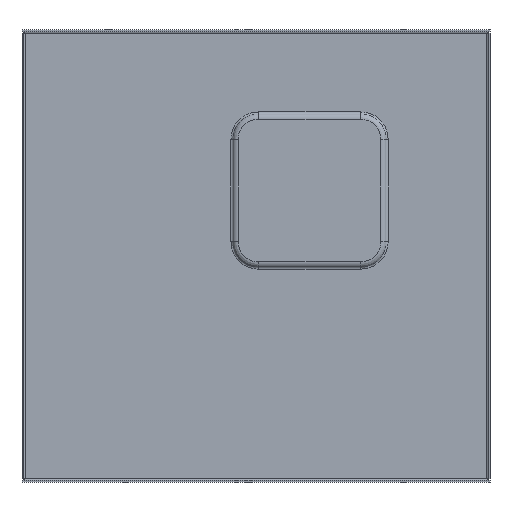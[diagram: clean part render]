
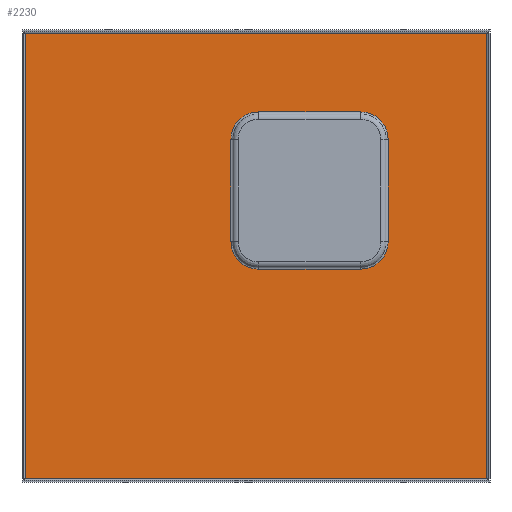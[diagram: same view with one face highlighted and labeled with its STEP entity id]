
A CAD part, front view. The second image highlights one B-rep face of the part: STEP entity #2230.
In plain terms, the highlighted planar face has unit normal (0, -1, 0).
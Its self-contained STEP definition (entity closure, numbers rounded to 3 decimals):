
#381=DIRECTION('',(1.,0.,0.));
#382=VECTOR('',#381,54.89);
#383=CARTESIAN_POINT('',(-27.445,3.2,-26.505));
#384=LINE('',#383,#382);
#392=DIRECTION('',(-1.,0.,0.));
#393=VECTOR('',#392,12.122);
#394=CARTESIAN_POINT('',(12.431,3.2,17.14));
#395=LINE('',#394,#393);
#396=CARTESIAN_POINT('',(0.309,3.2,17.14));
#397=CARTESIAN_POINT('',(0.039,3.2,17.14));
#398=CARTESIAN_POINT('',(-0.476,3.2,17.082));
#399=CARTESIAN_POINT('',(-1.182,3.2,16.837));
#400=CARTESIAN_POINT('',(-1.792,3.2,16.455));
#401=CARTESIAN_POINT('',(-2.295,3.2,15.952));
#402=CARTESIAN_POINT('',(-2.677,3.2,15.342));
#403=CARTESIAN_POINT('',(-2.922,3.2,14.636));
#404=CARTESIAN_POINT('',(-2.98,3.2,14.121));
#405=CARTESIAN_POINT('',(-2.98,3.2,13.851));
#407=DIRECTION('',(0.,0.,-1.));
#408=VECTOR('',#407,12.122);
#409=CARTESIAN_POINT('',(-2.98,3.2,13.851));
#410=LINE('',#409,#408);
#411=CARTESIAN_POINT('',(-2.98,3.2,1.729));
#412=CARTESIAN_POINT('',(-2.98,3.2,1.459));
#413=CARTESIAN_POINT('',(-2.922,3.2,0.944));
#414=CARTESIAN_POINT('',(-2.677,3.2,0.238));
#415=CARTESIAN_POINT('',(-2.295,3.2,
-0.372));
#416=CARTESIAN_POINT('',(-1.792,3.2,
-0.875));
#417=CARTESIAN_POINT('',(-1.182,3.2,-1.257));
#418=CARTESIAN_POINT('',(-0.476,3.2,
-1.502));
#419=CARTESIAN_POINT('',(0.039,3.2,-1.56));
#420=CARTESIAN_POINT('',(0.309,3.2,-1.56));
#422=DIRECTION('',(1.,0.,0.));
#423=VECTOR('',#422,12.122);
#424=CARTESIAN_POINT('',(0.309,3.2,-1.56));
#425=LINE('',#424,#423);
#426=CARTESIAN_POINT('',(12.431,3.2,-1.56));
#427=CARTESIAN_POINT('',(12.701,3.2,-1.56));
#428=CARTESIAN_POINT('',(13.216,3.2,-1.502));
#429=CARTESIAN_POINT('',(13.922,3.2,-1.257));
#430=CARTESIAN_POINT('',(14.532,3.2,-0.875));
#431=CARTESIAN_POINT('',(15.035,3.2,-0.372));
#432=CARTESIAN_POINT('',(15.417,3.2,0.238));
#433=CARTESIAN_POINT('',(15.662,3.2,0.944));
#434=CARTESIAN_POINT('',(15.72,3.2,1.459));
#435=CARTESIAN_POINT('',(15.72,3.2,1.729));
#437=DIRECTION('',(0.,0.,1.));
#438=VECTOR('',#437,12.122);
#439=CARTESIAN_POINT('',(15.72,3.2,1.729));
#440=LINE('',#439,#438);
#441=CARTESIAN_POINT('',(15.72,3.2,13.851));
#442=CARTESIAN_POINT('',(15.72,3.2,14.121));
#443=CARTESIAN_POINT('',(15.662,3.2,14.636));
#444=CARTESIAN_POINT('',(15.417,3.2,15.342));
#445=CARTESIAN_POINT('',(15.035,3.2,15.952));
#446=CARTESIAN_POINT('',(14.532,3.2,16.455));
#447=CARTESIAN_POINT('',(13.922,3.2,16.837));
#448=CARTESIAN_POINT('',(13.216,3.2,17.082));
#449=CARTESIAN_POINT('',(12.701,3.2,17.14));
#450=CARTESIAN_POINT('',(12.431,3.2,17.14));
#466=DIRECTION('',(0.,0.,-1.));
#467=VECTOR('',#466,53.01);
#468=CARTESIAN_POINT('',(-27.445,3.2,26.505));
#469=LINE('',#468,#467);
#543=DIRECTION('',(-1.,0.,0.));
#544=VECTOR('',#543,54.89);
#545=CARTESIAN_POINT('',(27.445,3.2,26.505));
#546=LINE('',#545,#544);
#660=DIRECTION('',(0.,0.,1.));
#661=VECTOR('',#660,53.01);
#662=CARTESIAN_POINT('',(27.445,3.2,-26.505));
#663=LINE('',#662,#661);
#1338=CARTESIAN_POINT('',(-27.445,3.2,26.505));
#1339=CARTESIAN_POINT('',(-27.445,3.2,-26.505));
#1340=VERTEX_POINT('',#1338);
#1341=VERTEX_POINT('',#1339);
#1370=CARTESIAN_POINT('',(27.445,3.2,-26.505));
#1371=CARTESIAN_POINT('',(27.445,3.2,26.505));
#1372=VERTEX_POINT('',#1370);
#1373=VERTEX_POINT('',#1371);
#1491=CARTESIAN_POINT('',(12.431,3.2,17.14));
#1492=CARTESIAN_POINT('',(0.309,3.2,17.14));
#1493=VERTEX_POINT('',#1491);
#1494=VERTEX_POINT('',#1492);
#1495=VERTEX_POINT('',#441);
#1496=CARTESIAN_POINT('',(15.72,3.2,1.729));
#1497=VERTEX_POINT('',#1496);
#1498=VERTEX_POINT('',#426);
#1499=CARTESIAN_POINT('',(0.309,3.2,-1.56));
#1500=VERTEX_POINT('',#1499);
#1501=VERTEX_POINT('',#411);
#1502=CARTESIAN_POINT('',(-2.98,3.2,13.851));
#1503=VERTEX_POINT('',#1502);
#2198=CARTESIAN_POINT('',(0.,3.2,0.));
#2199=DIRECTION('',(0.,1.,0.));
#2200=DIRECTION('',(1.,0.,0.));
#2201=AXIS2_PLACEMENT_3D('',#2198,#2199,#2200);
#2202=PLANE('',#2201);
#2203=ORIENTED_EDGE('',*,*,#2192,.F.);
#2205=ORIENTED_EDGE('',*,*,#2204,.F.);
#2207=ORIENTED_EDGE('',*,*,#2206,.F.);
#2209=ORIENTED_EDGE('',*,*,#2208,.F.);
#2210=EDGE_LOOP('',(#2203,#2205,#2207,#2209));
#2211=FACE_OUTER_BOUND('',#2210,.F.);
#2213=ORIENTED_EDGE('',*,*,#2212,.T.);
#2215=ORIENTED_EDGE('',*,*,#2214,.T.);
#2217=ORIENTED_EDGE('',*,*,#2216,.T.);
#2219=ORIENTED_EDGE('',*,*,#2218,.T.);
#2221=ORIENTED_EDGE('',*,*,#2220,.T.);
#2223=ORIENTED_EDGE('',*,*,#2222,.T.);
#2225=ORIENTED_EDGE('',*,*,#2224,.T.);
#2227=ORIENTED_EDGE('',*,*,#2226,.T.);
#2228=EDGE_LOOP('',(#2213,#2215,#2217,#2219,#2221,#2223,#2225,#2227));
#2229=FACE_BOUND('',#2228,.F.);
#2230=ADVANCED_FACE('',(#2211,#2229),#2202,.F.);
#406=B_SPLINE_CURVE_WITH_KNOTS('',3,(#396,#397,#398,#399,#400,#401,#402,#403,
#404,#405),.UNSPECIFIED.,.F.,.F.,(4,1,1,1,1,1,1,4),(0.,0.143,
0.286,0.429,0.571,0.714,
0.857,1.),.UNSPECIFIED.);
#421=B_SPLINE_CURVE_WITH_KNOTS('',3,(#411,#412,#413,#414,#415,#416,#417,#418,
#419,#420),.UNSPECIFIED.,.F.,.F.,(4,1,1,1,1,1,1,4),(0.,0.143,
0.286,0.429,0.571,0.714,
0.857,1.),.UNSPECIFIED.);
#436=B_SPLINE_CURVE_WITH_KNOTS('',3,(#426,#427,#428,#429,#430,#431,#432,#433,
#434,#435),.UNSPECIFIED.,.F.,.F.,(4,1,1,1,1,1,1,4),(0.,0.143,
0.286,0.429,0.571,0.714,
0.857,1.),.UNSPECIFIED.);
#451=B_SPLINE_CURVE_WITH_KNOTS('',3,(#441,#442,#443,#444,#445,#446,#447,#448,
#449,#450),.UNSPECIFIED.,.F.,.F.,(4,1,1,1,1,1,1,4),(0.,0.143,
0.286,0.429,0.571,0.714,
0.857,1.),.UNSPECIFIED.);
#2192=EDGE_CURVE('',#1341,#1372,#384,.T.);
#2204=EDGE_CURVE('',#1340,#1341,#469,.T.);
#2206=EDGE_CURVE('',#1373,#1340,#546,.T.);
#2208=EDGE_CURVE('',#1372,#1373,#663,.T.);
#2212=EDGE_CURVE('',#1493,#1494,#395,.T.);
#2214=EDGE_CURVE('',#1494,#1503,#406,.T.);
#2216=EDGE_CURVE('',#1503,#1501,#410,.T.);
#2218=EDGE_CURVE('',#1501,#1500,#421,.T.);
#2220=EDGE_CURVE('',#1500,#1498,#425,.T.);
#2222=EDGE_CURVE('',#1498,#1497,#436,.T.);
#2224=EDGE_CURVE('',#1497,#1495,#440,.T.);
#2226=EDGE_CURVE('',#1495,#1493,#451,.T.);
